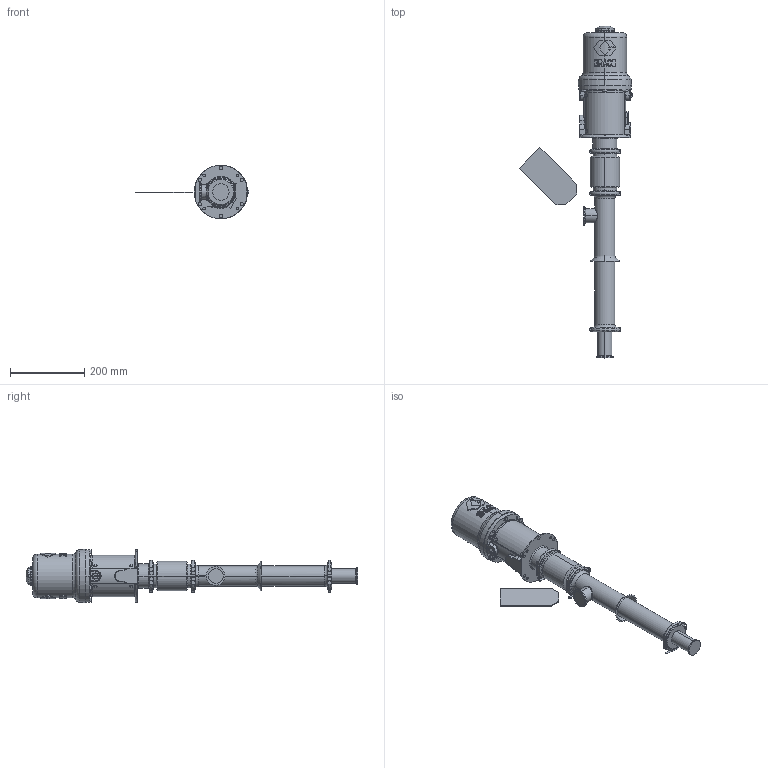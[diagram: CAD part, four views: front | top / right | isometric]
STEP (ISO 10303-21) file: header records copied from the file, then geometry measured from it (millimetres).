
FILE_DESCRIPTION((''),'2;1');
FILE_NAME('965520-EN-K_PRT','2020-01-01T11:52:01',('qusrh3'),(''),'CREO PARAMETRIC BY PTC INC, 2019030','CREO PARAMETRIC BY PTC INC, 2019030','');
FILE_SCHEMA(('CONFIG_CONTROL_DESIGN'));
Length unit declared in the file: inch
Products named in the file (1): 965520-EN-K_PRT
Bounding box: 306.46 x 894.82 x 144.27 mm (x, y, z)
Surface area: 398333.3 mm2 (no closed solid volume)
Topology: 0 solids, 70 shells, 917 faces, 2758 edges, 1830 vertices
Faces by surface type: plane 518, cylinder 169, cone 108, bspline 58, torus 56, sphere 8
Entity records: 34962 total; most frequent: CARTESIAN_POINT 12416, ORIENTED_EDGE 4649, DIRECTION 4199, EDGE_CURVE 2758, VERTEX_POINT 1830, AXIS2_PLACEMENT_3D 1533, VECTOR 1133, LINE 1133
